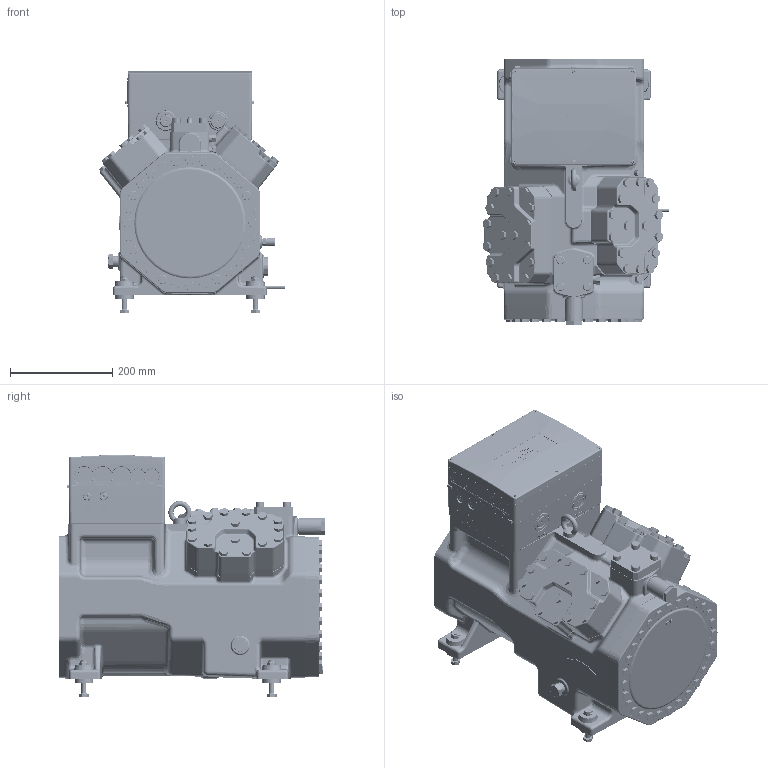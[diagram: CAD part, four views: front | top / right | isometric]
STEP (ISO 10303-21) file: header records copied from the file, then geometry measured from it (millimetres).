
FILE_DESCRIPTION(/* description */ (''),/* implementation_level */ '2;1');
FILE_NAME(/* name */ '4JTE-HTE-GTE-FTE-DTE-CTE-STD.stp',/* time_stamp */ '2023-12-13T08:59:17+01:00',/* author */ (''),/* organization */ (''),/* preprocessor_version */ 'ST-DEVELOPER v19.3',/* originating_system */ 'SIEMENS PLM Software NX2212.3001',/* authorisation */ '');
FILE_SCHEMA (('AUTOMOTIVE_DESIGN { 1 0 10303 214 3 1 1 1 }'));
Products named in the file (8): ELECTRICAL-TERMINAL-BOX-IP65; DAMPER-ELEMENT-CKHE4-CME4; TERMINAL-BOX-CE4-CM-RC-02; BEARING-COVER-CKH4; BLIND-FLANGE-HP-CO2; CRANKCASE-HEATER-200-460V; CKHE4-BODY; 4JTE-HTE-GTE-FTE-DTE-CTE-STD
Assembly tree (7 placements, depth 2):
  4JTE-HTE-GTE-FTE-DTE-CTE-STD
    CKHE4-BODY
    CRANKCASE-HEATER-200-460V
    BLIND-FLANGE-HP-CO2
    BEARING-COVER-CKH4
    TERMINAL-BOX-CE4-CM-RC-02
    DAMPER-ELEMENT-CKHE4-CME4
    ELECTRICAL-TERMINAL-BOX-IP65
Bounding box: 364.6 x 518.5 x 472.4 mm (x, y, z)
Volume: 46851038.1 mm3; surface area: 1615897.1 mm2
Topology: 22 solids, 45 shells, 6637 faces, 17030 edges, 10919 vertices
Faces by surface type: plane 3225, cylinder 1118, extrusion 920, cone 561, bspline 541, torus 188, sphere 84
Full cylindrical faces by diameter (mm): 3 x4, 3.57 x6, 4 x12, 5.2 x4, 5.795 x2, 6 x5, 6.3 x2, 7 x1, 8 x1, 8.5 x10, 9 x3, 10 x19, 10.29 x2, 11 x1, 12 x1, 12.2 x4, 13.716 x3, 13.732 x1, 14.6 x32, 14.63 x32, 15.6 x4, 16 x14, 17 x2, 18 x5, 20 x35, 21 x4, 21.34 x1, 22.2 x1, 25 x1, 27 x2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
Entity records: 218231 total; most frequent: CARTESIAN_POINT 69515, ORIENTED_EDGE 32276, DIRECTION 26462, EDGE_CURVE 16138, VERTEX_POINT 10689, AXIS2_PLACEMENT_3D 9568, EDGE_LOOP 7769, VECTOR 7326
